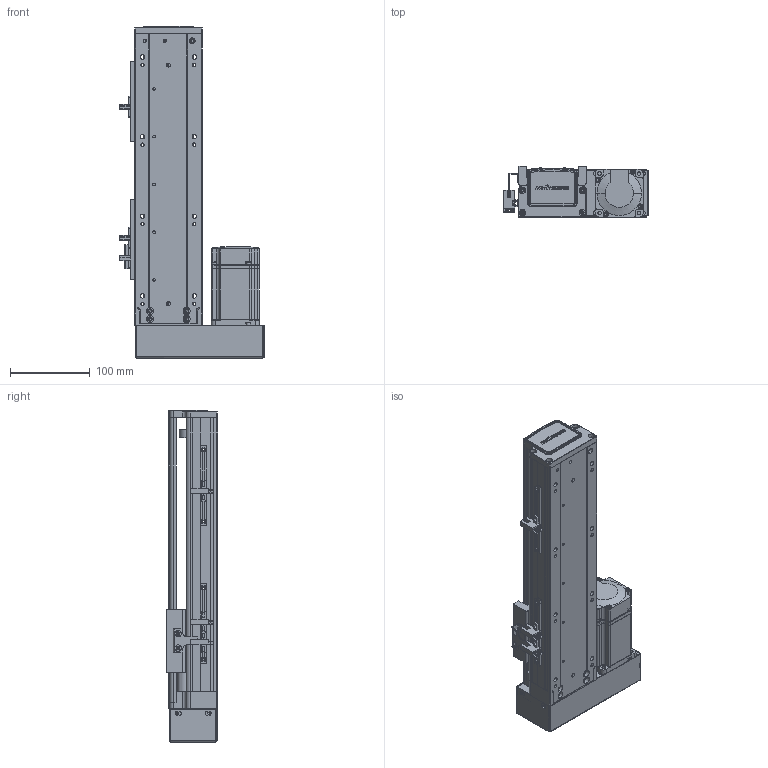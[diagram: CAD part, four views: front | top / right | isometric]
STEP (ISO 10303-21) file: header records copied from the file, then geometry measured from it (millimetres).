
FILE_DESCRIPTION (( 'STEP AP203' ), '1' );
FILE_NAME ('RY80-L1620-300-LK.SLDASM_200.step', '2021-02-20T07:16:34', ( '盈信电脑' ), ( '东莞市道滘镇水果街19号' ), 'SwSTEP 2.0', 'SolidWorks 2012', '' );
FILE_SCHEMA (( 'CONFIG_CONTROL_DESIGN' ));
Products named in the file (15): RY80-L1620-300-LK.SLDASM_200; RY80俋离覜茼え; T倰羞; 滅袉蝶18-24; 覜茼ん672; RY80酘莞萇儂假蚾啣; 侂狟200W萇儂; RY80酘殏俋欶; 1; RY80-300蛌諉倰第奻裔啣-LK_200; RY80綴裔啣; RY80转接电机端支撑座; 滅袉蝶18-10; RY80-300蛌諉倰第菁釱-LK_200; RY80臏賑輸
Assembly tree (17 placements, depth 3):
  RY80-L1620-300-LK.SLDASM_200
    RY80-300蛌諉倰第菁釱-LK_200
    RY80臏賑輸
    RY80-300蛌諉倰第奻裔啣-LK_200
    RY80綴裔啣
    滅袉蝶18-10
    RY80转接电机端支撑座
    侂狟200W萇儂
      1
    RY80酘莞萇儂假蚾啣
    RY80酘殏俋欶
    覜茼ん672  x3
    T倰羞  x2
    RY80俋离覜茼え
    滅袉蝶18-24
Bounding box: 181.7 x 65 x 417 mm (x, y, z)
Volume: 1110110.1 mm3; surface area: 406439.1 mm2
Topology: 16 solids, 16 shells, 2070 faces, 5675 edges, 3673 vertices
Faces by surface type: plane 1155, cylinder 717, cone 136, bspline 62
Entity records: 64685 total; most frequent: CARTESIAN_POINT 15935, ORIENTED_EDGE 10038, DIRECTION 9442, EDGE_CURVE 5019, VERTEX_POINT 3289, LINE 3202, VECTOR 3202, AXIS2_PLACEMENT_3D 3120
